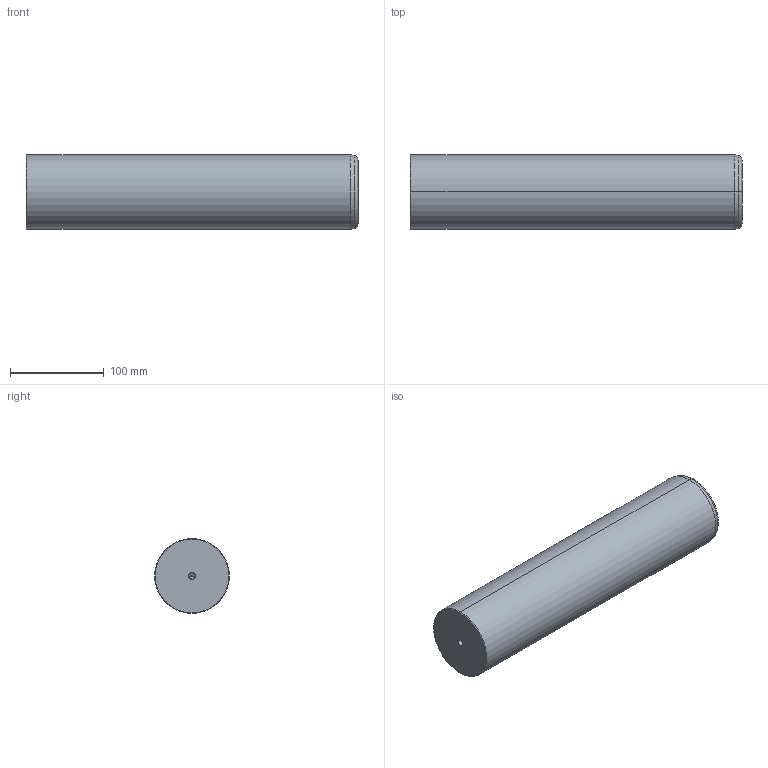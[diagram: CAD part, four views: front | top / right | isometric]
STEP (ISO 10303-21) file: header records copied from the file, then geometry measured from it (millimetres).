
FILE_DESCRIPTION(('CATIA V5 STEP Exchange'),'2;1');
FILE_NAME('C:\Users\Utente\Desktop\IO LAVORO\3D X SITO CF\X SITO\720\720-80x355.stp','2020-12-30T21:22:25+00:00',('none'),('none'),'CATIA Version 5 Release 20 GA (IN-10)','CATIA V5 STEP AP203','none');
FILE_SCHEMA(('CONFIG_CONTROL_DESIGN'));
Length unit declared in the file: millimetre
Products named in the file (1): 720-80x355
Bounding box: 355 x 80 x 80 mm (x, y, z)
Volume: 1779855.5 mm3; surface area: 99380.2 mm2
Topology: 1 solids, 1 shells, 22 faces, 62 edges, 40 vertices
Faces by surface type: cone 12, cylinder 6, plane 2, torus 2
Entity records: 806 total; most frequent: CARTESIAN_POINT 229, ORIENTED_EDGE 116, DIRECTION 93, EDGE_CURVE 58, AXIS2_PLACEMENT_3D 54, VERTEX_POINT 40, CIRCLE 31, EDGE_LOOP 24
